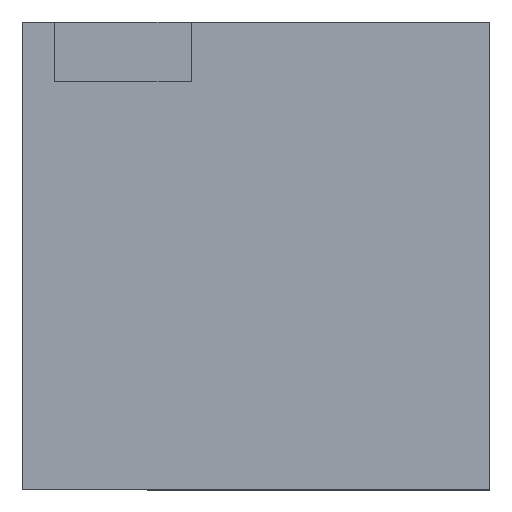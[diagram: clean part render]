
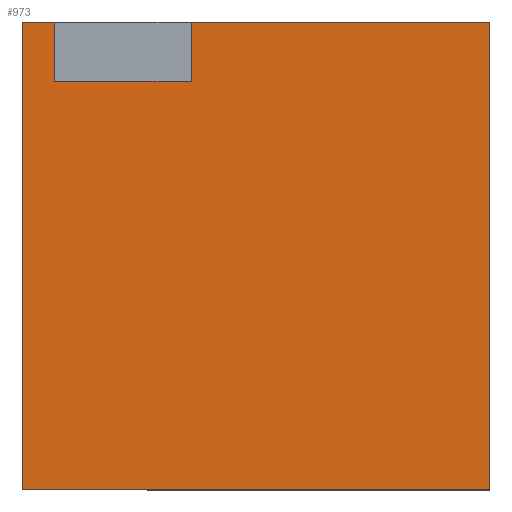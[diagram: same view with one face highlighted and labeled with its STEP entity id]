
A CAD part, top view. The second image highlights one B-rep face of the part: STEP entity #973.
In plain terms, the highlighted planar face has unit normal (0, 0, 1).
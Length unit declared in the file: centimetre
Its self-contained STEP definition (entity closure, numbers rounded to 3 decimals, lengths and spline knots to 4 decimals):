
#3 = DIRECTION ( 'NONE',  ( 0., 1., 0. ) ) ;
#89 = VECTOR ( 'NONE', #588, 100. ) ;
#108 = VERTEX_POINT ( 'NONE', #474 ) ;
#127 = DIRECTION ( 'NONE',  ( 0., -1., 0. ) ) ;
#131 = DIRECTION ( 'NONE',  ( -1., 0., 0. ) ) ;
#181 = CARTESIAN_POINT ( 'NONE',  ( 0., 1000., 1000. ) ) ;
#228 = LINE ( 'NONE', #940, #238 ) ;
#238 = VECTOR ( 'NONE', #1096, 100. ) ;
#254 = DIRECTION ( 'NONE',  ( 0., 0., 1. ) ) ;
#259 = PLANE ( 'NONE',  #735 ) ;
#260 = EDGE_CURVE ( 'NONE', #261, #744, #844, .T. ) ;
#261 = VERTEX_POINT ( 'NONE', #824 ) ;
#272 = DIRECTION ( 'NONE',  ( 1., 0., 0. ) ) ;
#290 = CARTESIAN_POINT ( 'NONE',  ( 361.1185, 1000., 1000. ) ) ;
#291 = EDGE_CURVE ( 'NONE', #744, #721, #833, .T. ) ;
#298 = EDGE_CURVE ( 'NONE', #608, #929, #228, .T. ) ;
#315 = VECTOR ( 'NONE', #697, 100. ) ;
#316 = ORIENTED_EDGE ( 'NONE', *, *, #298, .T. ) ;
#339 = EDGE_CURVE ( 'NONE', #929, #108, #419, .T. ) ;
#340 = FACE_OUTER_BOUND ( 'NONE', #578, .T. ) ;
#341 = CARTESIAN_POINT ( 'NONE',  ( 361.1185, 872.993, 1000. ) ) ;
#346 = EDGE_CURVE ( 'NONE', #108, #601, #595, .T. ) ;
#384 = CARTESIAN_POINT ( 'NONE',  ( 69.0071, 872.993, 1000. ) ) ;
#392 = CARTESIAN_POINT ( 'NONE',  ( 361.1185, 872.993, 1000. ) ) ;
#393 = CARTESIAN_POINT ( 'NONE',  ( 69.0071, 872.993, 1000. ) ) ;
#406 = VECTOR ( 'NONE', #3, 100. ) ;
#409 = CARTESIAN_POINT ( 'NONE',  ( 1000., 0., 1000. ) ) ;
#410 = EDGE_CURVE ( 'NONE', #700, #608, #434, .T. ) ;
#419 = LINE ( 'NONE', #862, #996 ) ;
#434 = LINE ( 'NONE', #181, #315 ) ;
#436 = ORIENTED_EDGE ( 'NONE', *, *, #291, .F. ) ;
#462 = VECTOR ( 'NONE', #131, 100. ) ;
#474 = CARTESIAN_POINT ( 'NONE',  ( 1000., 1000., 1000. ) ) ;
#514 = DIRECTION ( 'NONE',  ( 0., 1., 0. ) ) ;
#522 = LINE ( 'NONE', #341, #406 ) ;
#558 = CARTESIAN_POINT ( 'NONE',  ( 69.0071, 872.993, 1000. ) ) ;
#567 = ORIENTED_EDGE ( 'NONE', *, *, #730, .T. ) ;
#578 = EDGE_LOOP ( 'NONE', ( #1039, #567, #1038, #316, #908, #1057, #939, #436 ) ) ;
#588 = DIRECTION ( 'NONE',  ( 1., 0., 0. ) ) ;
#595 = LINE ( 'NONE', #778, #868 ) ;
#601 = VERTEX_POINT ( 'NONE', #290 ) ;
#608 = VERTEX_POINT ( 'NONE', #720 ) ;
#697 = DIRECTION ( 'NONE',  ( 0., -1., 0. ) ) ;
#700 = VERTEX_POINT ( 'NONE', #912 ) ;
#720 = CARTESIAN_POINT ( 'NONE',  ( 0., 0., 1000. ) ) ;
#721 = VERTEX_POINT ( 'NONE', #392 ) ;
#730 = EDGE_CURVE ( 'NONE', #261, #700, #743, .T. ) ;
#735 = AXIS2_PLACEMENT_3D ( 'NONE', #1055, #254, #272 ) ;
#743 = LINE ( 'NONE', #1095, #462 ) ;
#744 = VERTEX_POINT ( 'NONE', #384 ) ;
#778 = CARTESIAN_POINT ( 'NONE',  ( 0., 1000., 1000. ) ) ;
#824 = CARTESIAN_POINT ( 'NONE',  ( 69.0071, 1000., 1000. ) ) ;
#833 = LINE ( 'NONE', #393, #89 ) ;
#844 = LINE ( 'NONE', #558, #1135 ) ;
#862 = CARTESIAN_POINT ( 'NONE',  ( 1000., 1000., 1000. ) ) ;
#868 = VECTOR ( 'NONE', #1138, 100. ) ;
#908 = ORIENTED_EDGE ( 'NONE', *, *, #339, .T. ) ;
#912 = CARTESIAN_POINT ( 'NONE',  ( 0., 1000., 1000. ) ) ;
#929 = VERTEX_POINT ( 'NONE', #409 ) ;
#939 = ORIENTED_EDGE ( 'NONE', *, *, #1051, .F. ) ;
#940 = CARTESIAN_POINT ( 'NONE',  ( 0., 0., 1000. ) ) ;
#973 = ADVANCED_FACE ( 'NONE', ( #340 ), #259, .T. ) ;
#996 = VECTOR ( 'NONE', #514, 100. ) ;
#1038 = ORIENTED_EDGE ( 'NONE', *, *, #410, .T. ) ;
#1039 = ORIENTED_EDGE ( 'NONE', *, *, #260, .F. ) ;
#1051 = EDGE_CURVE ( 'NONE', #721, #601, #522, .T. ) ;
#1055 = CARTESIAN_POINT ( 'NONE',  ( 0., 0., 1000. ) ) ;
#1057 = ORIENTED_EDGE ( 'NONE', *, *, #346, .T. ) ;
#1095 = CARTESIAN_POINT ( 'NONE',  ( 0., 1000., 1000. ) ) ;
#1096 = DIRECTION ( 'NONE',  ( 1., 0., 0. ) ) ;
#1135 = VECTOR ( 'NONE', #127, 100. ) ;
#1138 = DIRECTION ( 'NONE',  ( -1., 0., 0. ) ) ;
